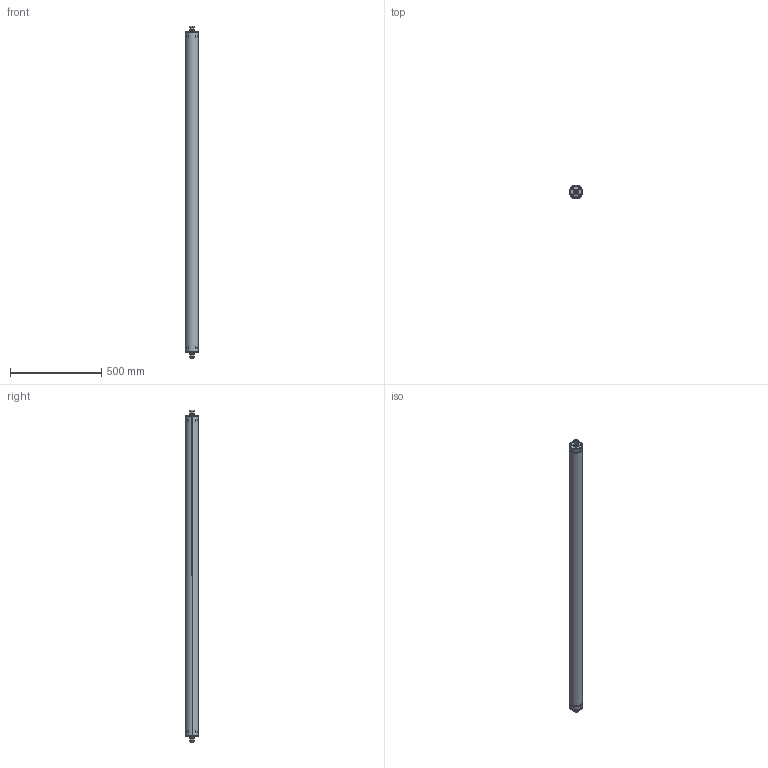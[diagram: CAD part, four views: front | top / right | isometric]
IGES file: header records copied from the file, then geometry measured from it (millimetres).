
Start section: SolidWorks IGES file using analytic representation for surfaces
Global section: file name: C:\Users\JoãoSantos\Desktop\02_3D.2D\01_2020\02_Linear\02_Tubo\02_Tubo_70\Repicagem\TUBO_70_REP_1752.IGS; native system: SolidWorks 2020; preprocessor: SolidWorks 2020; author: JoãoSantos; date: 201020.181003; units: millimetre
Bounding box: 73 x 73 x 1816 mm (x, y, z)
Surface area: 847337 mm2 (no closed solid volume)
Topology: 0 solids, 0 shells, 1775 faces, 16640 edges, 16420 vertices
Faces by surface type: revolution 1028, bspline 747
